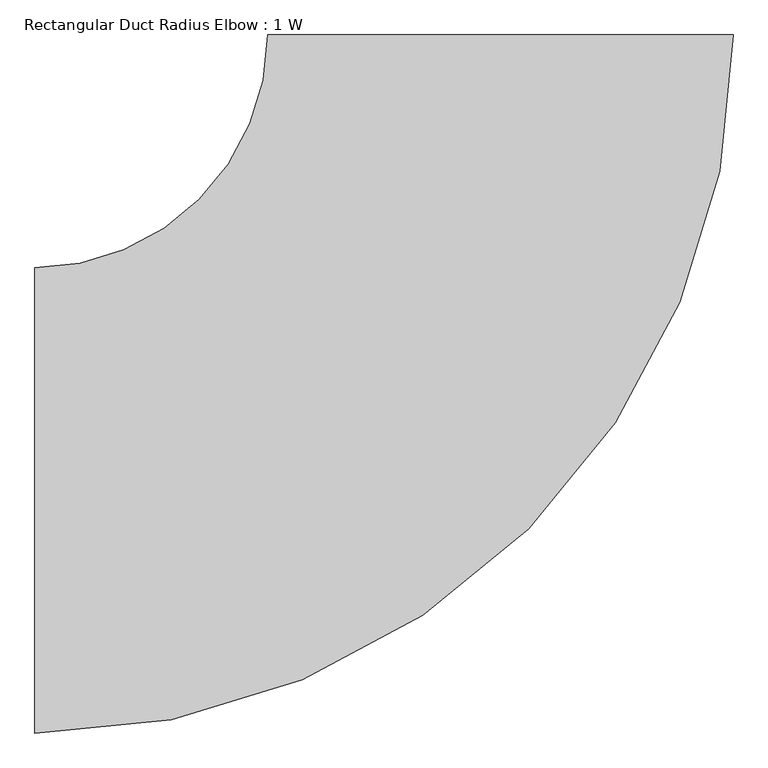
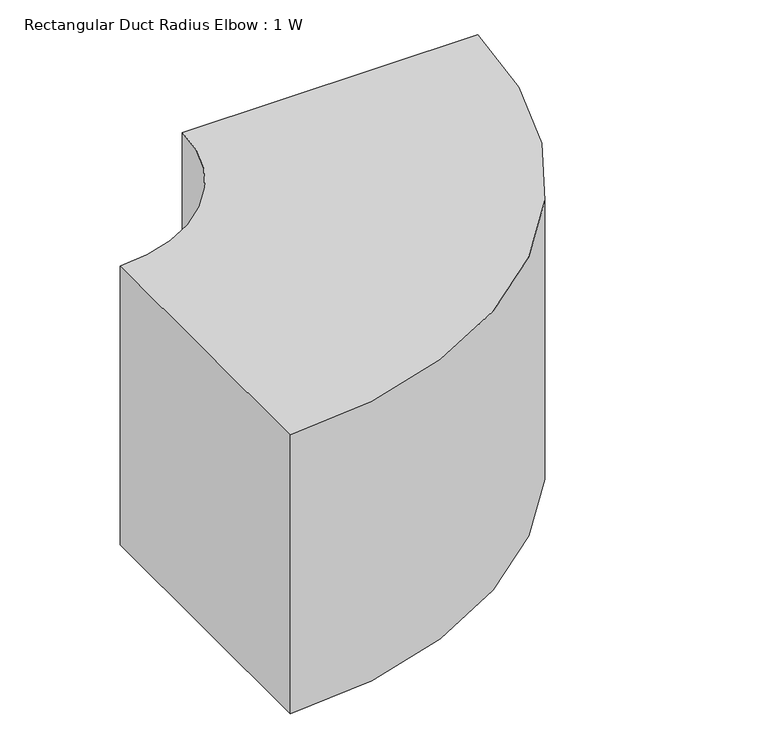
"""IFC4 building model written with IfcOpenShell, lengths in millimetres: duct fitting geometry, Rectangular Duct Radius Elbow : 1 W."""

from ifc_helpers import new_model, si_unit, point, frame, frame_2d, origin, place, context, project, spatial, polyline, circle_curve, trimmed, segment, composite_curve, outline, extrude, source, transform, mapped, element, save


def rectangular_duct_radius_elbow_1_w_26603e4f(model_context):
    return source(origin(), model_context, "Body", "SweptSolid", [
        extrude(outline(composite_curve([segment(trimmed(circle_curve(frame_2d((-762.0, 762.0)), 1143.0), [point((381.0, 762.0))], [point((-762.0, -381.0))], False, "CARTESIAN"), True, "CONTINUOUS"), segment(polyline([(-762.0, -381.0), (-762.0, 381.0)]), True, "CONTINUOUS"), segment(trimmed(circle_curve(frame_2d((-762.0, 762.0)), 381.0), [point((-762.0, 381.0))], [point((-381.0, 762.0))], True, "CARTESIAN"), True, "CONTINUOUS"), segment(polyline([(-381.0, 762.0), (381.0, 762.0)]), True, "CONTINUOUS")], self_intersect=False)), frame((0.0, 0.0, -381.0), z_axis=(0.0, 0.0, 1.0), x_axis=(1.0, 0.0, 0.0)), (0.0, 0.0, 1.0), 762.0),
        extrude(outline(composite_curve([segment(trimmed(circle_curve(frame_2d((-762.0, 762.0)), 1143.0), [point((381.0, 762.0))], [point((-762.0, -381.0))], False, "CARTESIAN"), True, "CONTINUOUS"), segment(polyline([(-762.0, -381.0), (-762.0, 381.0)]), True, "CONTINUOUS"), segment(trimmed(circle_curve(frame_2d((-762.0, 762.0)), 381.0), [point((-762.0, 381.0))], [point((-381.0, 762.0))], True, "CARTESIAN"), True, "CONTINUOUS"), segment(polyline([(-381.0, 762.0), (381.0, 762.0)]), True, "CONTINUOUS")], self_intersect=False)), frame((0.0, 0.0, -381.0), z_axis=(0.0, 0.0, 1.0), x_axis=(1.0, 0.0, 0.0)), (0.0, 0.0, 1.0), 762.0),
        extrude(outline(composite_curve([segment(trimmed(circle_curve(frame_2d((-762.0, 762.0)), 1143.0), [point((381.0, 762.0))], [point((-762.0, -381.0))], False, "CARTESIAN"), True, "CONTINUOUS"), segment(polyline([(-762.0, -381.0), (-762.0, 381.0)]), True, "CONTINUOUS"), segment(trimmed(circle_curve(frame_2d((-762.0, 762.0)), 381.0), [point((-762.0, 381.0))], [point((-381.0, 762.0))], True, "CARTESIAN"), True, "CONTINUOUS"), segment(polyline([(-381.0, 762.0), (381.0, 762.0)]), True, "CONTINUOUS")], self_intersect=False)), frame((0.0, 0.0, -381.0), z_axis=(0.0, 0.0, 1.0), x_axis=(1.0, 0.0, 0.0)), (0.0, 0.0, 1.0), 762.0),
    ])


if __name__ == "__main__":
    model = new_model("IFC4")
    model_context = context("Model", 3, world=origin())
    ifc_project = project(units=[si_unit("LENGTHUNIT", "METRE", prefix="MILLI")], contexts=[model_context])
    site = spatial("IfcSite", under=ifc_project)
    building = spatial("IfcBuilding", under=site)
    placement = place(None, origin())
    rectangular_duct_radius_elbow_1_w_shape = rectangular_duct_radius_elbow_1_w_26603e4f(model_context)
    element("IfcDuctFitting", 1, ObjectType="Rectangular Duct Radius Elbow : 1 W", at=placement, inside=building, context=model_context, shape_type="MappedRepresentation", body=[
        mapped(rectangular_duct_radius_elbow_1_w_shape, transform((0.0, 0.0, 0.0), x_axis=(1.0, 0.0, 0.0), y_axis=(0.0, 1.0, 0.0), z_axis=(0.0, 0.0, 1.0))),
    ])
    save(model, "model.ifc")
